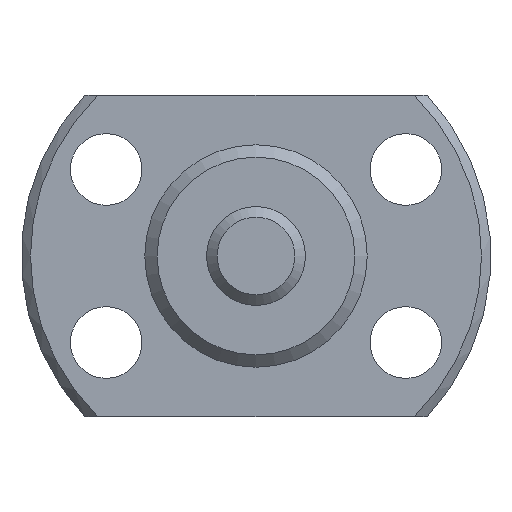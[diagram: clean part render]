
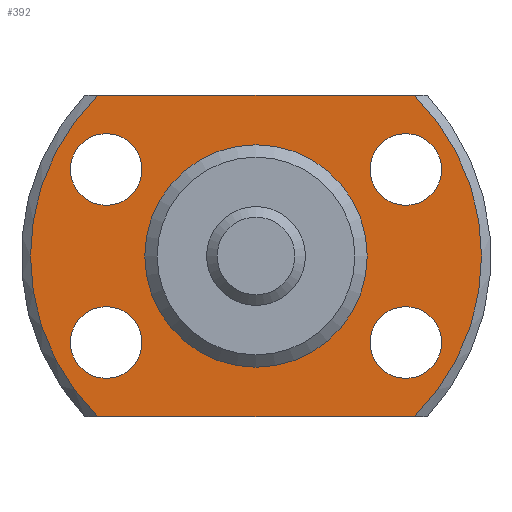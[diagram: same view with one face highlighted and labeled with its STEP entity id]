
A CAD part, left-side view. The second image highlights one B-rep face of the part: STEP entity #392.
In plain terms, the highlighted planar face has unit normal (-1, 0, 0) as drawn and (1, 0, 0) by its records, which use the part's own axes.
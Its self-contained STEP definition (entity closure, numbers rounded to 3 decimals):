
#22=LINE('',#695,#30);
#23=LINE('',#697,#31);
#30=VECTOR('',#570,1000.);
#31=VECTOR('',#571,1000.);
#114=ORIENTED_EDGE('',*,*,#189,.T.);
#115=ORIENTED_EDGE('',*,*,#167,.T.);
#116=ORIENTED_EDGE('',*,*,#190,.T.);
#117=ORIENTED_EDGE('',*,*,#191,.T.);
#118=ORIENTED_EDGE('',*,*,#192,.F.);
#119=ORIENTED_EDGE('',*,*,#193,.F.);
#120=ORIENTED_EDGE('',*,*,#194,.F.);
#121=ORIENTED_EDGE('',*,*,#195,.F.);
#122=ORIENTED_EDGE('',*,*,#188,.F.);
#167=EDGE_CURVE('',#209,#211,#245,.T.);
#188=EDGE_CURVE('',#230,#230,#260,.T.);
#189=EDGE_CURVE('',#231,#209,#22,.T.);
#190=EDGE_CURVE('',#211,#232,#23,.T.);
#191=EDGE_CURVE('',#232,#231,#261,.T.);
#192=EDGE_CURVE('',#233,#233,#262,.T.);
#193=EDGE_CURVE('',#234,#234,#263,.T.);
#194=EDGE_CURVE('',#235,#235,#264,.T.);
#195=EDGE_CURVE('',#236,#236,#265,.T.);
#209=VERTEX_POINT('',#630);
#211=VERTEX_POINT('',#637);
#230=VERTEX_POINT('',#693);
#231=VERTEX_POINT('',#696);
#232=VERTEX_POINT('',#698);
#233=VERTEX_POINT('',#701);
#234=VERTEX_POINT('',#703);
#235=VERTEX_POINT('',#705);
#236=VERTEX_POINT('',#707);
#245=CIRCLE('',#442,9.125);
#260=CIRCLE('',#466,4.3);
#261=CIRCLE('',#468,9.125);
#262=CIRCLE('',#469,1.45);
#263=CIRCLE('',#470,1.45);
#264=CIRCLE('',#471,1.45);
#265=CIRCLE('',#472,1.45);
#298=EDGE_LOOP('',(#114,#115,#116,#117));
#299=EDGE_LOOP('',(#118));
#300=EDGE_LOOP('',(#119));
#301=EDGE_LOOP('',(#120));
#302=EDGE_LOOP('',(#121));
#303=EDGE_LOOP('',(#122));
#348=FACE_BOUND('',#298,.T.);
#349=FACE_BOUND('',#299,.T.);
#350=FACE_BOUND('',#300,.T.);
#351=FACE_BOUND('',#301,.T.);
#352=FACE_BOUND('',#302,.T.);
#353=FACE_BOUND('',#303,.T.);
#373=PLANE('',#467);
#392=ADVANCED_FACE('',(#348,#349,#350,#351,#352,#353),#373,.T.);
#442=AXIS2_PLACEMENT_3D('',#638,#514,#515);
#466=AXIS2_PLACEMENT_3D('',#692,#566,#567);
#467=AXIS2_PLACEMENT_3D('',#694,#568,#569);
#468=AXIS2_PLACEMENT_3D('',#699,#572,#573);
#469=AXIS2_PLACEMENT_3D('',#700,#574,#575);
#470=AXIS2_PLACEMENT_3D('',#702,#576,#577);
#471=AXIS2_PLACEMENT_3D('',#704,#578,#579);
#472=AXIS2_PLACEMENT_3D('',#706,#580,#581);
#514=DIRECTION('',(1.,0.,0.));
#515=DIRECTION('',(0.,0.,-1.));
#566=DIRECTION('',(1.,0.,0.));
#567=DIRECTION('',(0.,0.,-1.));
#568=DIRECTION('',(1.,0.,0.));
#569=DIRECTION('',(0.,0.,-1.));
#570=DIRECTION('',(0.,-1.,0.));
#571=DIRECTION('',(0.,1.,0.));
#572=DIRECTION('',(1.,0.,0.));
#573=DIRECTION('',(0.,0.,-1.));
#574=DIRECTION('',(1.,0.,0.));
#575=DIRECTION('',(0.,0.,-1.));
#576=DIRECTION('',(1.,0.,0.));
#577=DIRECTION('',(0.,0.,-1.));
#578=DIRECTION('',(1.,0.,0.));
#579=DIRECTION('',(0.,0.,-1.));
#580=DIRECTION('',(1.,0.,0.));
#581=DIRECTION('',(0.,0.,-1.));
#630=CARTESIAN_POINT('',(3.,-6.404,6.5));
#637=CARTESIAN_POINT('',(3.,-6.404,-6.5));
#638=CARTESIAN_POINT('',(3.,0.,0.));
#692=CARTESIAN_POINT('',(3.,0.,0.));
#693=CARTESIAN_POINT('',(3.,0.,-4.3));
#694=CARTESIAN_POINT('',(3.,4.3,0.));
#695=CARTESIAN_POINT('',(3.,9.5,6.5));
#696=CARTESIAN_POINT('',(3.,6.404,6.5));
#697=CARTESIAN_POINT('',(3.,-9.5,-6.5));
#698=CARTESIAN_POINT('',(3.,6.404,-6.5));
#699=CARTESIAN_POINT('',(3.,0.,0.));
#700=CARTESIAN_POINT('',(3.,6.062,3.5));
#701=CARTESIAN_POINT('',(3.,6.062,2.05));
#702=CARTESIAN_POINT('',(3.,-6.062,3.5));
#703=CARTESIAN_POINT('',(3.,-6.062,2.05));
#704=CARTESIAN_POINT('',(3.,-6.062,-3.5));
#705=CARTESIAN_POINT('',(3.,-6.062,-4.95));
#706=CARTESIAN_POINT('',(3.,6.062,-3.5));
#707=CARTESIAN_POINT('',(3.,6.062,-4.95));
